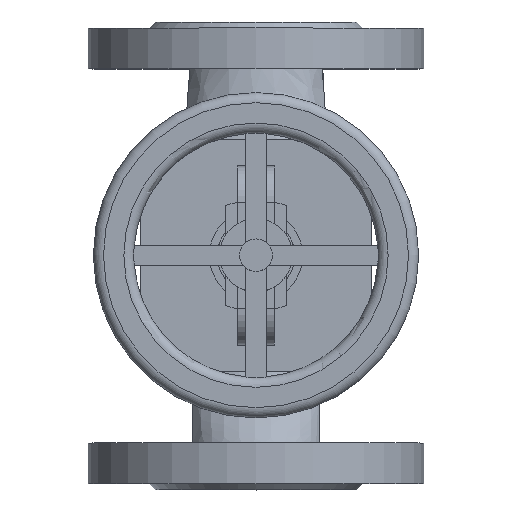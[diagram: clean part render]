
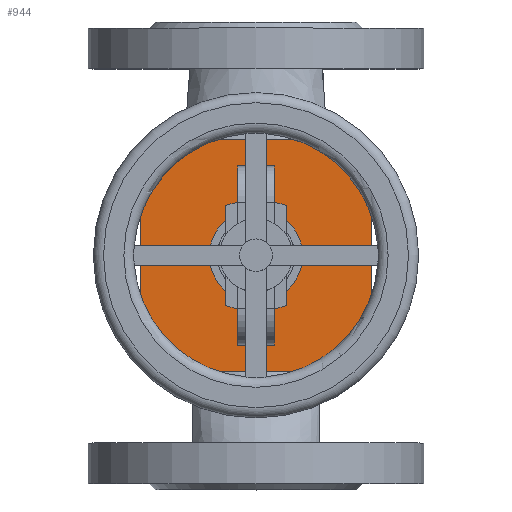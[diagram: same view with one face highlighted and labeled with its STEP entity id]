
A CAD part, top view. The second image highlights one B-rep face of the part: STEP entity #944.
In plain terms, the highlighted planar face has unit normal (0, 0, 1).
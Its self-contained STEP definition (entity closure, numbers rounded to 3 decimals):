
#944=ADVANCED_FACE('',(#7308,#7310),#7312,.T.);
#7308=FACE_BOUND('',#7309,.T.);
#7309=EDGE_LOOP('',(#12671,#12672,#12673,#12674,#12675,#12676,#12677,#12678));
#7310=FACE_BOUND('',#7311,.T.);
#7311=EDGE_LOOP('',(#12679));
#7312=PLANE('',#7313);
#7313=AXIS2_PLACEMENT_3D('',#7314,#7315,#7316);
#7314=CARTESIAN_POINT('',(0.,0.,79.));
#7315=DIRECTION('',(0.,0.,1.));
#7316=DIRECTION('',(0.,1.,0.));
#12671=ORIENTED_EDGE('',*,*,#13445,.F.);
#12672=ORIENTED_EDGE('',*,*,#13458,.T.);
#12673=ORIENTED_EDGE('',*,*,#13457,.F.);
#12674=ORIENTED_EDGE('',*,*,#13454,.T.);
#12675=ORIENTED_EDGE('',*,*,#13453,.F.);
#12676=ORIENTED_EDGE('',*,*,#13451,.T.);
#12677=ORIENTED_EDGE('',*,*,#13449,.F.);
#12678=ORIENTED_EDGE('',*,*,#13446,.T.);
#12679=ORIENTED_EDGE('',*,*,#13476,.T.);
#13445=EDGE_CURVE('',#14129,#14127,#14131,.F.);
#13446=EDGE_CURVE('',#14132,#14127,#14133,.T.);
#13449=EDGE_CURVE('',#14132,#14135,#14137,.F.);
#13451=EDGE_CURVE('',#14138,#14135,#14140,.T.);
#13453=EDGE_CURVE('',#14138,#14141,#14143,.F.);
#13454=EDGE_CURVE('',#14144,#14141,#14145,.T.);
#13457=EDGE_CURVE('',#14144,#14147,#14149,.F.);
#13458=EDGE_CURVE('',#14129,#14147,#14150,.T.);
#13476=EDGE_CURVE('',#14181,#14181,#14182,.T.);
#14127=VERTEX_POINT('',#17688);
#14129=VERTEX_POINT('',#17692);
#14131=LINE('',#17696,#17697);
#14132=VERTEX_POINT('',#17699);
#14133=LINE('',#17700,#17701);
#14135=VERTEX_POINT('',#17706);
#14137=LINE('',#17710,#17711);
#14138=VERTEX_POINT('',#17713);
#14140=LINE('',#17717,#17718);
#14141=VERTEX_POINT('',#17720);
#14143=LINE('',#17724,#17725);
#14144=VERTEX_POINT('',#17727);
#14145=LINE('',#17728,#17729);
#14147=VERTEX_POINT('',#17734);
#14149=LINE('',#17738,#17739);
#14150=LINE('',#17741,#17742);
#14181=VERTEX_POINT('',#18056);
#14182=CIRCLE('',#18057,23.);
#17688=CARTESIAN_POINT('',(-47.,57.,79.));
#17692=CARTESIAN_POINT('',(-57.,47.,79.));
#17696=CARTESIAN_POINT('',(-47.,57.,79.));
#17697=VECTOR('',#17698,1.);
#17698=DIRECTION('',(-0.707,-0.707,0.));
#17699=CARTESIAN_POINT('',(47.,57.,79.));
#17700=CARTESIAN_POINT('',(47.,57.,79.));
#17701=VECTOR('',#17702,1.);
#17702=DIRECTION('',(-1.,0.,0.));
#17706=CARTESIAN_POINT('',(57.,47.,79.));
#17710=CARTESIAN_POINT('',(57.,47.,79.));
#17711=VECTOR('',#17712,1.);
#17712=DIRECTION('',(-0.707,0.707,0.));
#17713=CARTESIAN_POINT('',(57.,-47.,79.));
#17717=CARTESIAN_POINT('',(57.,-47.,79.));
#17718=VECTOR('',#17719,1.);
#17719=DIRECTION('',(0.,1.,0.));
#17720=CARTESIAN_POINT('',(47.,-57.,79.));
#17724=CARTESIAN_POINT('',(47.,-57.,79.));
#17725=VECTOR('',#17726,1.);
#17726=DIRECTION('',(0.707,0.707,0.));
#17727=CARTESIAN_POINT('',(-47.,-57.,79.));
#17728=CARTESIAN_POINT('',(-47.,-57.,79.));
#17729=VECTOR('',#17730,1.);
#17730=DIRECTION('',(1.,0.,0.));
#17734=CARTESIAN_POINT('',(-57.,-47.,79.));
#17738=CARTESIAN_POINT('',(-57.,-47.,79.));
#17739=VECTOR('',#17740,1.);
#17740=DIRECTION('',(0.707,-0.707,0.));
#17741=CARTESIAN_POINT('',(-57.,47.,79.));
#17742=VECTOR('',#17743,1.);
#17743=DIRECTION('',(0.,-1.,0.));
#18056=CARTESIAN_POINT('',(0.,23.,79.));
#18057=AXIS2_PLACEMENT_3D('',#18058,#18059,#18060);
#18058=CARTESIAN_POINT('',(0.,0.,79.));
#18059=DIRECTION('',(0.,0.,-1.));
#18060=DIRECTION('',(0.,1.,0.));
